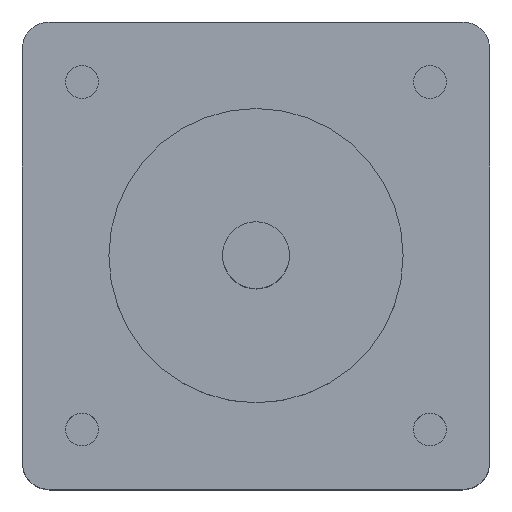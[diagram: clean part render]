
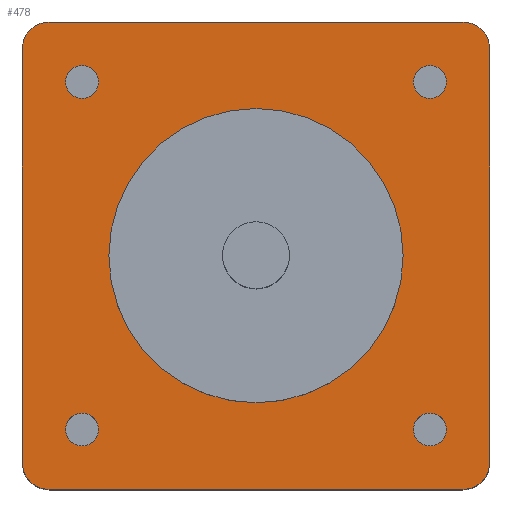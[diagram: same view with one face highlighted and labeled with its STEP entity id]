
A CAD part, top view. The second image highlights one B-rep face of the part: STEP entity #478.
In plain terms, the highlighted planar face has unit normal (0, 0, 1).
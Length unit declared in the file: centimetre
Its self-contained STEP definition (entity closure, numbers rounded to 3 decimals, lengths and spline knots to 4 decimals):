
#174=VERTEX_POINT('',#1719);
#176=VERTEX_POINT('',#1725);
#178=VERTEX_POINT('',#1731);
#180=VERTEX_POINT('',#1737);
#184=VERTEX_POINT('',#1749);
#201=VERTEX_POINT('',#1801);
#202=VERTEX_POINT('',#1803);
#203=VERTEX_POINT('',#1807);
#204=VERTEX_POINT('',#1811);
#205=VERTEX_POINT('',#1815);
#206=VERTEX_POINT('',#1820);
#207=VERTEX_POINT('',#1824);
#208=VERTEX_POINT('',#1828);
#210=EDGE_CURVE('',#174,#174,#594,.T.);
#212=EDGE_CURVE('',#176,#176,#596,.T.);
#214=EDGE_CURVE('',#178,#178,#598,.T.);
#216=EDGE_CURVE('',#180,#180,#600,.T.);
#220=EDGE_CURVE('',#184,#184,#604,.T.);
#246=EDGE_CURVE('',#201,#202,#621,.T.);
#249=EDGE_CURVE('',#203,#201,#670,.T.);
#251=EDGE_CURVE('',#204,#203,#622,.T.);
#253=EDGE_CURVE('',#205,#204,#673,.T.);
#254=EDGE_CURVE('',#202,#206,#674,.T.);
#256=EDGE_CURVE('',#206,#207,#623,.T.);
#258=EDGE_CURVE('',#207,#208,#677,.T.);
#260=EDGE_CURVE('',#208,#205,#624,.T.);
#352=ORIENTED_EDGE('',*,*,#210,.T.);
#353=ORIENTED_EDGE('',*,*,#212,.T.);
#354=ORIENTED_EDGE('',*,*,#214,.T.);
#355=ORIENTED_EDGE('',*,*,#216,.T.);
#356=ORIENTED_EDGE('',*,*,#220,.T.);
#357=ORIENTED_EDGE('',*,*,#251,.F.);
#358=ORIENTED_EDGE('',*,*,#253,.F.);
#359=ORIENTED_EDGE('',*,*,#260,.F.);
#360=ORIENTED_EDGE('',*,*,#258,.F.);
#361=ORIENTED_EDGE('',*,*,#256,.F.);
#362=ORIENTED_EDGE('',*,*,#254,.F.);
#363=ORIENTED_EDGE('',*,*,#246,.F.);
#364=ORIENTED_EDGE('',*,*,#249,.F.);
#401=EDGE_LOOP('',(#352));
#402=EDGE_LOOP('',(#353));
#403=EDGE_LOOP('',(#354));
#404=EDGE_LOOP('',(#355));
#405=EDGE_LOOP('',(#356));
#406=EDGE_LOOP('',(#357,#358,#359,#360,#361,#362,#363,#364));
#443=FACE_BOUND('',#401,.T.);
#444=FACE_BOUND('',#402,.T.);
#445=FACE_BOUND('',#403,.T.);
#446=FACE_BOUND('',#404,.T.);
#447=FACE_BOUND('',#405,.T.);
#448=FACE_BOUND('',#406,.T.);
#478=ADVANCED_FACE('',(#443,#444,#445,#446,#447,#448),#1323,.T.);
#594=CIRCLE('',#1188,0.123);
#596=CIRCLE('',#1192,0.123);
#598=CIRCLE('',#1196,0.123);
#600=CIRCLE('',#1200,0.123);
#604=CIRCLE('',#1208,1.1);
#621=CIRCLE('',#1235,0.2);
#622=CIRCLE('',#1238,0.2);
#623=CIRCLE('',#1243,0.2);
#624=CIRCLE('',#1246,0.2);
#670=LINE('',#1808,#1295);
#673=LINE('',#1816,#1298);
#674=LINE('',#1819,#1299);
#677=LINE('',#1827,#1302);
#1188=AXIS2_PLACEMENT_3D('',#1718,#1437,#1438);
#1192=AXIS2_PLACEMENT_3D('',#1724,#1444,#1445);
#1196=AXIS2_PLACEMENT_3D('',#1730,#1451,#1452);
#1200=AXIS2_PLACEMENT_3D('',#1736,#1458,#1459);
#1208=AXIS2_PLACEMENT_3D('',#1748,#1472,#1473);
#1235=AXIS2_PLACEMENT_3D('',#1802,#1530,#1531);
#1238=AXIS2_PLACEMENT_3D('',#1812,#1539,#1540);
#1243=AXIS2_PLACEMENT_3D('',#1823,#1550,#1551);
#1246=AXIS2_PLACEMENT_3D('',#1831,#1558,#1559);
#1247=AXIS2_PLACEMENT_3D('',#1832,#1560,$);
#1295=VECTOR('',#1535,1.);
#1298=VECTOR('',#1543,1.);
#1299=VECTOR('',#1546,1.);
#1302=VECTOR('',#1554,1.);
#1323=PLANE('',#1247);
#1437=DIRECTION('',(0.,0.,-1.));
#1438=DIRECTION('',(0.,0.123,0.));
#1444=DIRECTION('',(0.,0.,-1.));
#1445=DIRECTION('',(0.,0.123,0.));
#1451=DIRECTION('',(0.,0.,-1.));
#1452=DIRECTION('',(0.,0.123,0.));
#1458=DIRECTION('',(0.,0.,-1.));
#1459=DIRECTION('',(0.,0.123,0.));
#1472=DIRECTION('',(0.,0.,-1.));
#1473=DIRECTION('',(1.1,0.,0.));
#1530=DIRECTION('',(0.,0.,-1.));
#1531=DIRECTION('',(0.2,0.,0.));
#1535=DIRECTION('',(-1.,0.,0.));
#1539=DIRECTION('',(0.,0.,-1.));
#1540=DIRECTION('',(0.2,0.,0.));
#1543=DIRECTION('',(0.,-1.,0.));
#1546=DIRECTION('',(0.,1.,0.));
#1550=DIRECTION('',(0.,0.,-1.));
#1551=DIRECTION('',(0.2,0.,0.));
#1554=DIRECTION('',(1.,0.,0.));
#1558=DIRECTION('',(0.,0.,-1.));
#1559=DIRECTION('',(0.2,0.,0.));
#1560=DIRECTION('',(0.,0.,1.));
#1718=CARTESIAN_POINT('',(-3.0475,0.4475,2.7));
#1719=CARTESIAN_POINT('',(-3.0475,0.5704,2.7));
#1724=CARTESIAN_POINT('',(-0.4476,0.4476,2.7));
#1725=CARTESIAN_POINT('',(-0.4476,0.5705,2.7));
#1730=CARTESIAN_POINT('',(-0.4475,3.0475,2.7));
#1731=CARTESIAN_POINT('',(-0.4475,3.1704,2.7));
#1736=CARTESIAN_POINT('',(-3.0475,3.0475,2.7));
#1737=CARTESIAN_POINT('',(-3.0475,3.1704,2.7));
#1748=CARTESIAN_POINT('',(-1.7475,1.7475,2.7));
#1749=CARTESIAN_POINT('',(-0.6475,1.7475,2.7));
#1801=CARTESIAN_POINT('',(-3.295,0.,2.7));
#1802=CARTESIAN_POINT('',(-3.295,0.2,2.7));
#1803=CARTESIAN_POINT('',(-3.495,0.2,2.7));
#1807=CARTESIAN_POINT('',(-0.2,0.,2.7));
#1808=CARTESIAN_POINT('',(-3.295,0.,2.7));
#1811=CARTESIAN_POINT('',(0.,0.2,2.7));
#1812=CARTESIAN_POINT('',(-0.2,0.2,2.7));
#1815=CARTESIAN_POINT('',(0.,3.295,2.7));
#1816=CARTESIAN_POINT('',(0.,0.2,2.7));
#1819=CARTESIAN_POINT('',(-3.495,3.295,2.7));
#1820=CARTESIAN_POINT('',(-3.495,3.295,2.7));
#1823=CARTESIAN_POINT('',(-3.295,3.295,2.7));
#1824=CARTESIAN_POINT('',(-3.295,3.495,2.7));
#1827=CARTESIAN_POINT('',(-0.2,3.495,2.7));
#1828=CARTESIAN_POINT('',(-0.2,3.495,2.7));
#1831=CARTESIAN_POINT('',(-0.2,3.295,2.7));
#1832=CARTESIAN_POINT('',(-1.7475,1.7475,2.7));
